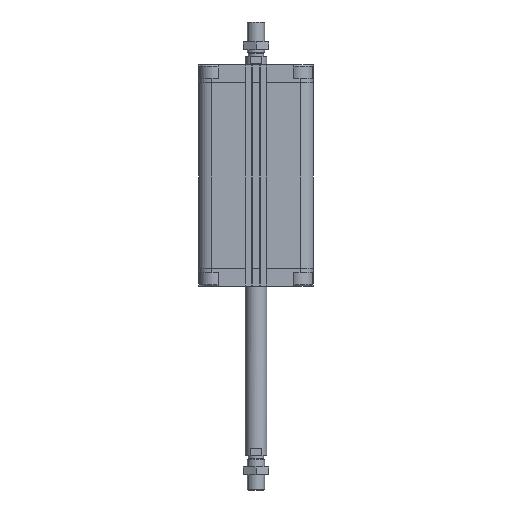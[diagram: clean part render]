
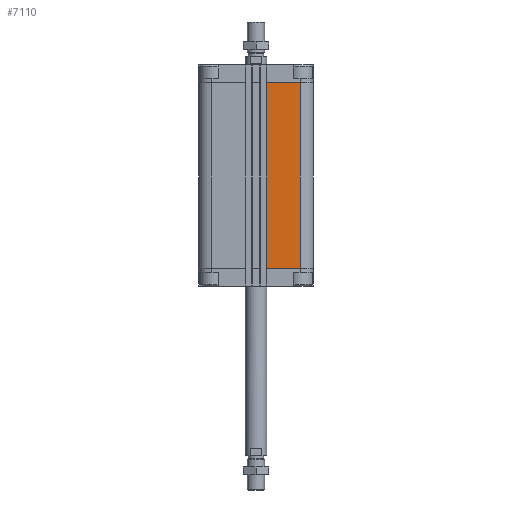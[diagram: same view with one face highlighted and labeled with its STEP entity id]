
A CAD part, front view. The second image highlights one B-rep face of the part: STEP entity #7110.
In plain terms, the highlighted planar face has unit normal (0, -1, 0).
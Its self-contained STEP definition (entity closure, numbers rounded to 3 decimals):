
#684 = DIRECTION ( 'NONE',  ( 0., 0., 1. ) ) ;
#1219 = EDGE_CURVE ( 'NONE', #4898, #22587, #21915, .T. ) ;
#2070 = PLANE ( 'NONE',  #8668 ) ;
#2126 = DIRECTION ( 'NONE',  ( 0., 0., 1. ) ) ;
#2627 = CARTESIAN_POINT ( 'NONE',  ( 9.95, -53.5, -16.5 ) ) ;
#3683 = FACE_OUTER_BOUND ( 'NONE', #16028, .T. ) ;
#4898 = VERTEX_POINT ( 'NONE', #12470 ) ;
#5308 = EDGE_CURVE ( 'NONE', #7364, #4898, #21484, .T. ) ;
#7047 = ORIENTED_EDGE ( 'NONE', *, *, #15563, .F. ) ;
#7110 = ADVANCED_FACE ( 'NONE', ( #3683 ), #2070, .T. ) ;
#7223 = VERTEX_POINT ( 'NONE', #2627 ) ;
#7364 = VERTEX_POINT ( 'NONE', #22469 ) ;
#7641 = ORIENTED_EDGE ( 'NONE', *, *, #8675, .F. ) ;
#7896 = CARTESIAN_POINT ( 'NONE',  ( 41., -53.5, -16.5 ) ) ;
#8301 = ORIENTED_EDGE ( 'NONE', *, *, #5308, .T. ) ;
#8668 = AXIS2_PLACEMENT_3D ( 'NONE', #10766, #17837, #14593 ) ;
#8675 = EDGE_CURVE ( 'NONE', #7364, #7223, #9194, .T. ) ;
#9194 = LINE ( 'NONE', #16165, #16184 ) ;
#9420 = DIRECTION ( 'NONE',  ( 1., 0., 0. ) ) ;
#10766 = CARTESIAN_POINT ( 'NONE',  ( 9.95, -53.5, -189.5 ) ) ;
#11039 = CARTESIAN_POINT ( 'NONE',  ( 9.95, -53.5, -189.5 ) ) ;
#11443 = CARTESIAN_POINT ( 'NONE',  ( 9.95, -53.5, -16.5 ) ) ;
#12470 = CARTESIAN_POINT ( 'NONE',  ( 41., -53.5, -189.5 ) ) ;
#13723 = ORIENTED_EDGE ( 'NONE', *, *, #1219, .T. ) ;
#14593 = DIRECTION ( 'NONE',  ( -1., 0., 0. ) ) ;
#15563 = EDGE_CURVE ( 'NONE', #7223, #22587, #20273, .T. ) ;
#16028 = EDGE_LOOP ( 'NONE', ( #7047, #7641, #8301, #13723 ) ) ;
#16165 = CARTESIAN_POINT ( 'NONE',  ( 9.95, -53.5, -189.5 ) ) ;
#16184 = VECTOR ( 'NONE', #2126, 1000. ) ;
#16473 = CARTESIAN_POINT ( 'NONE',  ( 41., -53.5, -189.5 ) ) ;
#16796 = VECTOR ( 'NONE', #9420, 1000. ) ;
#17837 = DIRECTION ( 'NONE',  ( 0., -1., 0. ) ) ;
#17907 = VECTOR ( 'NONE', #684, 1000. ) ;
#18560 = VECTOR ( 'NONE', #20846, 1000. ) ;
#20273 = LINE ( 'NONE', #11443, #18560 ) ;
#20846 = DIRECTION ( 'NONE',  ( 1., 0., 0. ) ) ;
#21484 = LINE ( 'NONE', #11039, #16796 ) ;
#21915 = LINE ( 'NONE', #16473, #17907 ) ;
#22469 = CARTESIAN_POINT ( 'NONE',  ( 9.95, -53.5, -189.5 ) ) ;
#22587 = VERTEX_POINT ( 'NONE', #7896 ) ;
